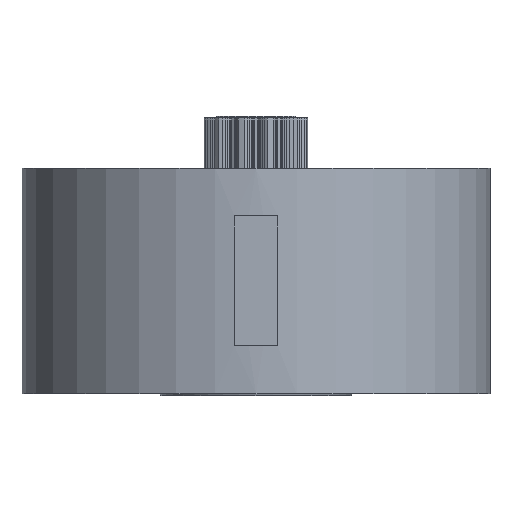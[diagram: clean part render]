
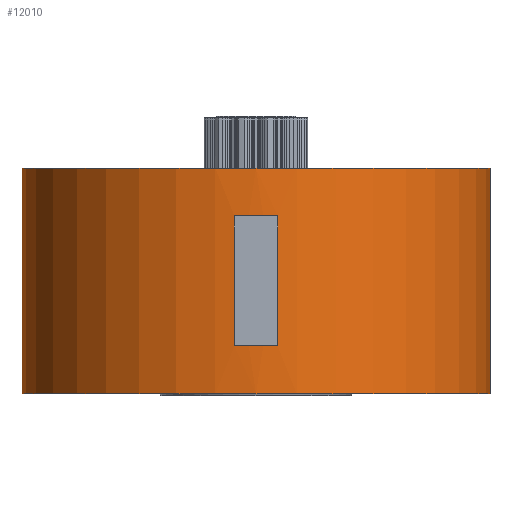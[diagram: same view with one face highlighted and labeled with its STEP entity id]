
A CAD part, front view. The second image highlights one B-rep face of the part: STEP entity #12010.
In plain terms, the highlighted cylindrical face has radius 27 mm (diameter 54 mm), a partial arc.
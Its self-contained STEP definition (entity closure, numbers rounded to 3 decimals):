
#1008 = AXIS2_PLACEMENT_3D ( 'NONE', #4131, #8916, #7834 ) ;
#1041 = CARTESIAN_POINT ( 'NONE',  ( -2.5, -26.884, -7.5 ) ) ;
#1269 = CARTESIAN_POINT ( 'NONE',  ( 2.5, -26.884, -7.5 ) ) ;
#1283 = EDGE_CURVE ( 'NONE', #2612, #10279, #14373, .T. ) ;
#1347 = LINE ( 'NONE', #9445, #12825 ) ;
#1719 = CARTESIAN_POINT ( 'NONE',  ( -27., 0., 13. ) ) ;
#1933 = EDGE_LOOP ( 'NONE', ( #12407, #5723, #12970, #9088 ) ) ;
#2110 = VERTEX_POINT ( 'NONE', #1269 ) ;
#2512 = LINE ( 'NONE', #2737, #9146 ) ;
#2612 = VERTEX_POINT ( 'NONE', #10167 ) ;
#2616 = CARTESIAN_POINT ( 'NONE',  ( 0., 0., -13. ) ) ;
#2695 = EDGE_CURVE ( 'NONE', #9386, #4376, #13431, .T. ) ;
#2737 = CARTESIAN_POINT ( 'NONE',  ( 2.5, -26.884, 13. ) ) ;
#2903 = FACE_BOUND ( 'NONE', #1933, .T. ) ;
#4075 = DIRECTION ( 'NONE',  ( 0., 0., -1. ) ) ;
#4131 = CARTESIAN_POINT ( 'NONE',  ( 0., 0., 13. ) ) ;
#4376 = VERTEX_POINT ( 'NONE', #10033 ) ;
#4426 = CIRCLE ( 'NONE', #5160, 27. ) ;
#4880 = ORIENTED_EDGE ( 'NONE', *, *, #13845, .F. ) ;
#4923 = CARTESIAN_POINT ( 'NONE',  ( 2.5, -26.884, 7.5 ) ) ;
#4971 = DIRECTION ( 'NONE',  ( 0., 0., 1. ) ) ;
#5160 = AXIS2_PLACEMENT_3D ( 'NONE', #12328, #4075, #12475 ) ;
#5476 = CARTESIAN_POINT ( 'NONE',  ( -2.5, -26.884, 7.5 ) ) ;
#5683 = VECTOR ( 'NONE', #8113, 1000. ) ;
#5723 = ORIENTED_EDGE ( 'NONE', *, *, #8806, .F. ) ;
#5728 = CARTESIAN_POINT ( 'NONE',  ( 27., 0., 13. ) ) ;
#6157 = DIRECTION ( 'NONE',  ( 1., 0., 0. ) ) ;
#6416 = DIRECTION ( 'NONE',  ( 0., 0., -1. ) ) ;
#6540 = DIRECTION ( 'NONE',  ( 1., 0., 0. ) ) ;
#6700 = CARTESIAN_POINT ( 'NONE',  ( 0., 0., 13. ) ) ;
#6819 = EDGE_LOOP ( 'NONE', ( #4880, #9602, #10333, #11459 ) ) ;
#6848 = CARTESIAN_POINT ( 'NONE',  ( -27., 0., 13. ) ) ;
#7274 = AXIS2_PLACEMENT_3D ( 'NONE', #6700, #7850, #6540 ) ;
#7473 = VERTEX_POINT ( 'NONE', #4923 ) ;
#7601 = FACE_OUTER_BOUND ( 'NONE', #6819, .T. ) ;
#7834 = DIRECTION ( 'NONE',  ( -1., 0., 0. ) ) ;
#7850 = DIRECTION ( 'NONE',  ( 0., 0., 1. ) ) ;
#8113 = DIRECTION ( 'NONE',  ( 0., 0., -1. ) ) ;
#8771 = EDGE_CURVE ( 'NONE', #10255, #9262, #1347, .T. ) ;
#8806 = EDGE_CURVE ( 'NONE', #2110, #7473, #2512, .T. ) ;
#8916 = DIRECTION ( 'NONE',  ( 0., 0., -1. ) ) ;
#8955 = AXIS2_PLACEMENT_3D ( 'NONE', #14929, #12462, #12539 ) ;
#9088 = ORIENTED_EDGE ( 'NONE', *, *, #8771, .T. ) ;
#9146 = VECTOR ( 'NONE', #11977, 1000. ) ;
#9198 = CIRCLE ( 'NONE', #8955, 27. ) ;
#9262 = VERTEX_POINT ( 'NONE', #5476 ) ;
#9271 = CARTESIAN_POINT ( 'NONE',  ( 27., 0., -13. ) ) ;
#9386 = VERTEX_POINT ( 'NONE', #6848 ) ;
#9445 = CARTESIAN_POINT ( 'NONE',  ( -2.5, -26.884, 13. ) ) ;
#9602 = ORIENTED_EDGE ( 'NONE', *, *, #2695, .F. ) ;
#9713 = EDGE_CURVE ( 'NONE', #7473, #9262, #9198, .T. ) ;
#9791 = VECTOR ( 'NONE', #6416, 1000. ) ;
#10033 = CARTESIAN_POINT ( 'NONE',  ( 27., 0., 13. ) ) ;
#10063 = CYLINDRICAL_SURFACE ( 'NONE', #1008, 27. ) ;
#10114 = LINE ( 'NONE', #1719, #9791 ) ;
#10167 = CARTESIAN_POINT ( 'NONE',  ( -27., 0., -13. ) ) ;
#10255 = VERTEX_POINT ( 'NONE', #1041 ) ;
#10279 = VERTEX_POINT ( 'NONE', #9271 ) ;
#10333 = ORIENTED_EDGE ( 'NONE', *, *, #10578, .T. ) ;
#10437 = AXIS2_PLACEMENT_3D ( 'NONE', #2616, #11864, #6157 ) ;
#10578 = EDGE_CURVE ( 'NONE', #9386, #2612, #10114, .T. ) ;
#11459 = ORIENTED_EDGE ( 'NONE', *, *, #1283, .T. ) ;
#11617 = EDGE_CURVE ( 'NONE', #2110, #10255, #4426, .T. ) ;
#11864 = DIRECTION ( 'NONE',  ( 0., 0., 1. ) ) ;
#11977 = DIRECTION ( 'NONE',  ( 0., 0., 1. ) ) ;
#12010 = ADVANCED_FACE ( 'NONE', ( #7601, #2903 ), #10063, .T. ) ;
#12328 = CARTESIAN_POINT ( 'NONE',  ( 0., 0., -7.5 ) ) ;
#12407 = ORIENTED_EDGE ( 'NONE', *, *, #9713, .F. ) ;
#12462 = DIRECTION ( 'NONE',  ( 0., 0., -1. ) ) ;
#12475 = DIRECTION ( 'NONE',  ( -1., 0., 0. ) ) ;
#12539 = DIRECTION ( 'NONE',  ( -1., 0., 0. ) ) ;
#12825 = VECTOR ( 'NONE', #4971, 1000. ) ;
#12970 = ORIENTED_EDGE ( 'NONE', *, *, #11617, .T. ) ;
#13431 = CIRCLE ( 'NONE', #7274, 27. ) ;
#13751 = LINE ( 'NONE', #5728, #5683 ) ;
#13845 = EDGE_CURVE ( 'NONE', #4376, #10279, #13751, .T. ) ;
#14373 = CIRCLE ( 'NONE', #10437, 27. ) ;
#14929 = CARTESIAN_POINT ( 'NONE',  ( 0., 0., 7.5 ) ) ;
